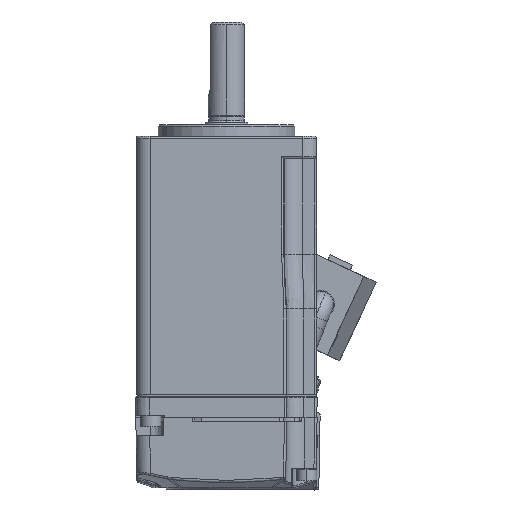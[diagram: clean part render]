
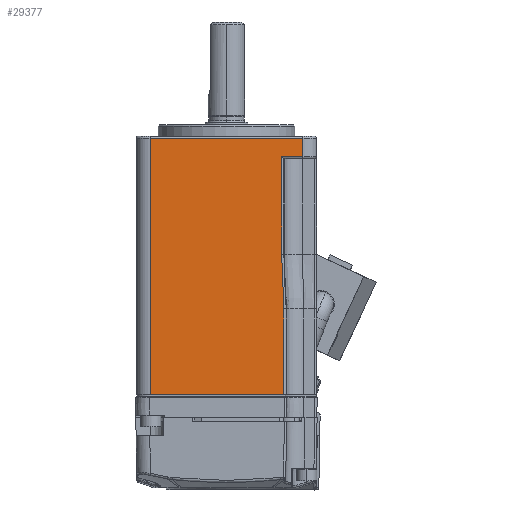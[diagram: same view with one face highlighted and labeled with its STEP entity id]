
A CAD part, front view. The second image highlights one B-rep face of the part: STEP entity #29377.
In plain terms, the highlighted planar face has unit normal (0, -1, 0).
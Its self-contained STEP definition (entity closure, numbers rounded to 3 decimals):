
#5743=DIRECTION('',(0.,0.,-1.));
#5744=VECTOR('',#5743,18.8);
#5745=CARTESIAN_POINT('',(12.604,-19.75,-32.9));
#5746=LINE('',#5745,#5744);
#5747=DIRECTION('',(-1.,0.,0.));
#5748=VECTOR('',#5747,29.354);
#5749=CARTESIAN_POINT('',(12.604,-19.75,-51.7));
#5750=LINE('',#5749,#5748);
#5751=DIRECTION('',(0.,0.,-1.));
#5752=VECTOR('',#5751,56.2);
#5753=CARTESIAN_POINT('',(-16.75,-19.75,4.5));
#5754=LINE('',#5753,#5752);
#5755=DIRECTION('',(1.,0.,0.));
#5756=VECTOR('',#5755,33.5);
#5757=CARTESIAN_POINT('',(-16.75,-19.75,4.5));
#5758=LINE('',#5757,#5756);
#5759=DIRECTION('',(0.,0.,-1.));
#5760=VECTOR('',#5759,4.);
#5761=CARTESIAN_POINT('',(16.75,-19.75,4.5));
#5762=LINE('',#5761,#5760);
#5763=DIRECTION('',(-1.,0.,0.));
#5764=VECTOR('',#5763,4.646);
#5765=CARTESIAN_POINT('',(16.75,-19.75,0.5));
#5766=LINE('',#5765,#5764);
#5767=DIRECTION('',(0.,0.,-1.));
#5768=VECTOR('',#5767,21.4);
#5769=CARTESIAN_POINT('',(12.104,-19.75,0.5));
#5770=LINE('',#5769,#5768);
#5771=CARTESIAN_POINT('',(12.104,-19.75,-20.9));
#5772=CARTESIAN_POINT('',(12.104,-19.75,
-22.195));
#5773=CARTESIAN_POINT('',(12.199,-19.75,
-24.814));
#5774=CARTESIAN_POINT('',(12.516,-19.75,
-29.11));
#5775=CARTESIAN_POINT('',(12.604,-19.75,
-31.658));
#5776=CARTESIAN_POINT('',(12.604,-19.75,-32.9));
#21129=CARTESIAN_POINT('',(-16.75,-19.75,-51.7));
#21131=VERTEX_POINT('',#21129);
#21234=CARTESIAN_POINT('',(12.604,-19.75,-51.7));
#21236=VERTEX_POINT('',#21234);
#21237=CARTESIAN_POINT('',(12.604,-19.75,-32.9));
#21238=VERTEX_POINT('',#21237);
#21242=VERTEX_POINT('',#5771);
#21245=CARTESIAN_POINT('',(12.104,-19.75,0.5));
#21246=VERTEX_POINT('',#21245);
#21257=CARTESIAN_POINT('',(16.75,-19.75,0.5));
#21258=VERTEX_POINT('',#21257);
#21273=CARTESIAN_POINT('',(16.75,-19.75,4.5));
#21274=VERTEX_POINT('',#21273);
#21312=CARTESIAN_POINT('',(-16.75,-19.75,4.5));
#21313=VERTEX_POINT('',#21312);
#29357=CARTESIAN_POINT('',(-19.75,-19.75,0.));
#29358=DIRECTION('',(0.,-1.,0.));
#29359=DIRECTION('',(1.,0.,0.));
#29360=AXIS2_PLACEMENT_3D('',#29357,#29358,#29359);
#29361=PLANE('',#29360);
#29363=ORIENTED_EDGE('',*,*,#29362,.T.);
#29364=ORIENTED_EDGE('',*,*,#28997,.T.);
#29365=ORIENTED_EDGE('',*,*,#29350,.F.);
#29366=ORIENTED_EDGE('',*,*,#28912,.T.);
#29368=ORIENTED_EDGE('',*,*,#29367,.T.);
#29370=ORIENTED_EDGE('',*,*,#29369,.T.);
#29372=ORIENTED_EDGE('',*,*,#29371,.T.);
#29374=ORIENTED_EDGE('',*,*,#29373,.T.);
#29375=EDGE_LOOP('',(#29363,#29364,#29365,#29366,#29368,#29370,#29372,#29374));
#29376=FACE_OUTER_BOUND('',#29375,.F.);
#29377=ADVANCED_FACE('',(#29376),#29361,.T.);
#5777=B_SPLINE_CURVE_WITH_KNOTS('',3,(#5771,#5772,#5773,#5774,#5775,#5776),
.UNSPECIFIED.,.F.,.F.,(4,1,1,4),(0.,0.333,0.667,1.),
.UNSPECIFIED.);
#28912=EDGE_CURVE('',#21313,#21274,#5758,.T.);
#28997=EDGE_CURVE('',#21236,#21131,#5750,.T.);
#29350=EDGE_CURVE('',#21313,#21131,#5754,.T.);
#29362=EDGE_CURVE('',#21238,#21236,#5746,.T.);
#29367=EDGE_CURVE('',#21274,#21258,#5762,.T.);
#29369=EDGE_CURVE('',#21258,#21246,#5766,.T.);
#29371=EDGE_CURVE('',#21246,#21242,#5770,.T.);
#29373=EDGE_CURVE('',#21242,#21238,#5777,.T.);
